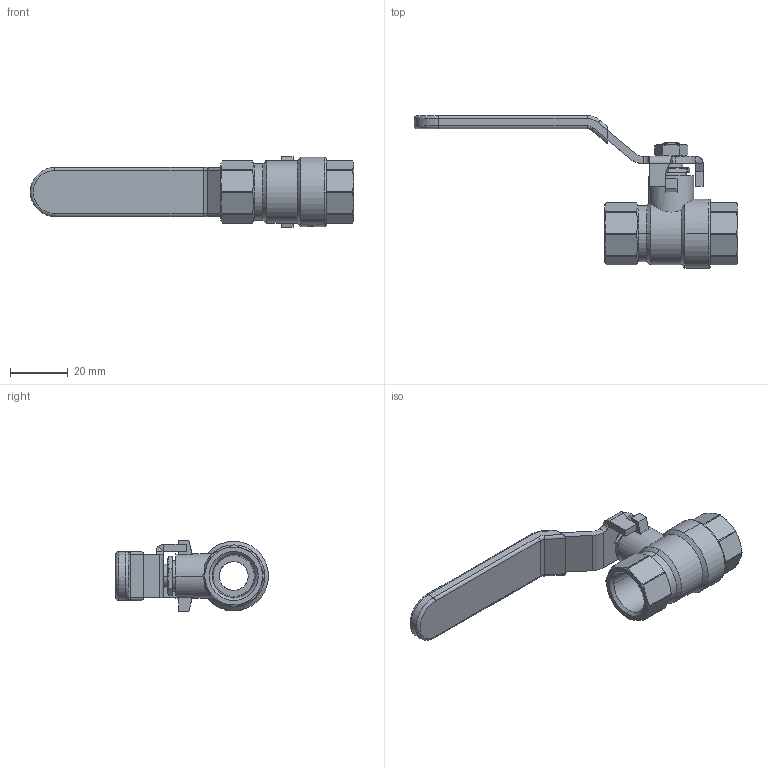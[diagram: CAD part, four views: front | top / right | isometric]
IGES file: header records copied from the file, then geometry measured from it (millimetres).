
Global section: file name: No Iges File Name specified; native system: AutoDesk Inventor R12.0; preprocessor: AutoDesk Inventor Iges Exporter R12.0; date: 20110127.162843; units: millimetre
Bounding box: 112 x 52.91 x 24.5 mm (x, y, z)
Volume: 20842.9 mm3; surface area: 18883.2 mm2
Topology: 6 solids, 6 shells, 1562 faces, 4189 edges, 2777 vertices
Faces by surface type: plane 816, bspline 528, cylinder 73, revolution 66, cone 55, torus 20, sphere 4
